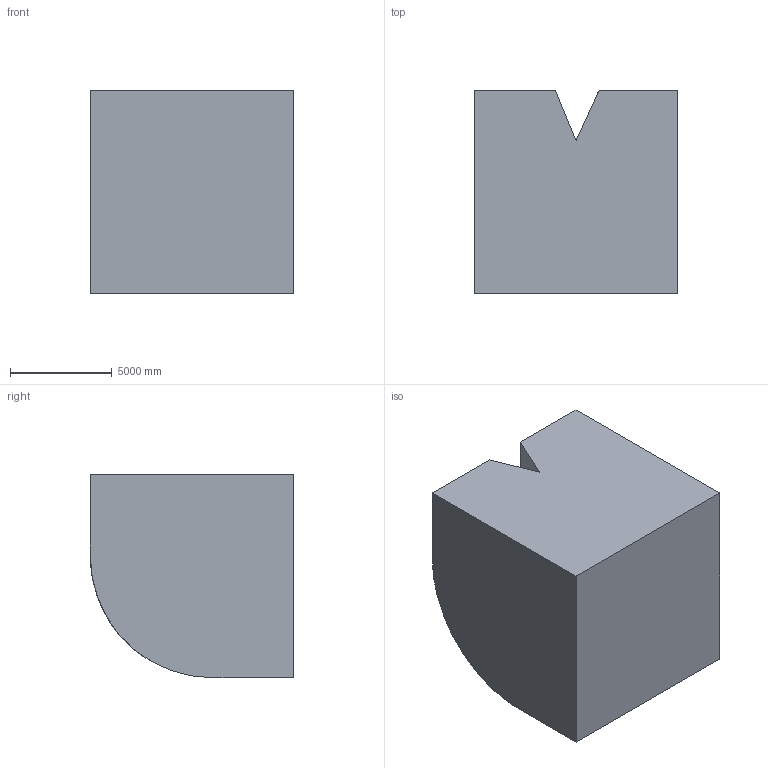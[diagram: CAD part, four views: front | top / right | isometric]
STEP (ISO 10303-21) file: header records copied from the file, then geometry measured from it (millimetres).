
FILE_DESCRIPTION (( 'STEP AP203' ), '1' );
FILE_NAME ('205.STEP', '2022-09-07T12:17:08', ( 'user' ), ( '' ), 'SwSTEP 2.0', 'SolidWorks 2021', '' );
FILE_SCHEMA (( 'CONFIG_CONTROL_DESIGN' ));
Length unit declared in the file: centimetre
Products named in the file (1): 205
Bounding box: 10000 x 10000 x 10000 mm (x, y, z)
Volume: 905114497709.7 mm3; surface area: 579870092.9 mm2
Topology: 1 solids, 1 shells, 10 faces, 24 edges, 16 vertices
Faces by surface type: plane 9, cylinder 1
Entity records: 367 total; most frequent: CARTESIAN_POINT 57, ORIENTED_EDGE 48, DIRECTION 46, EDGE_CURVE 24, LINE 20, VECTOR 20, VERTEX_POINT 16, AXIS2_PLACEMENT_3D 13
